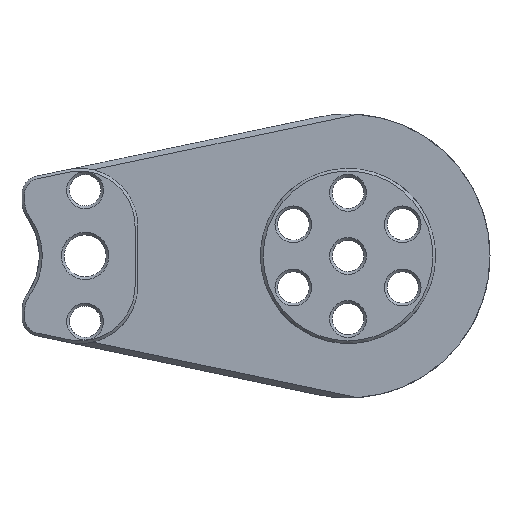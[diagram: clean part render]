
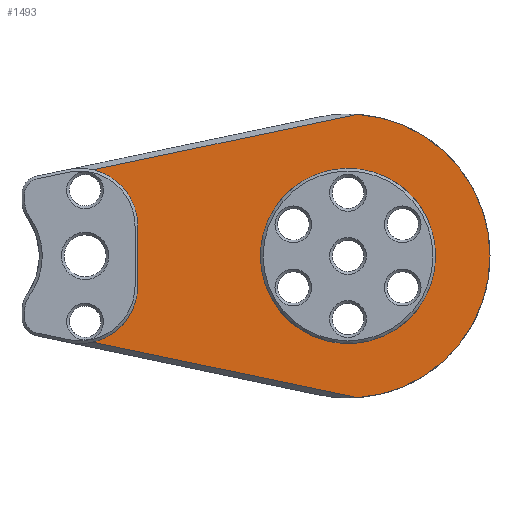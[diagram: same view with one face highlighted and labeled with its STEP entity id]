
A CAD part, top view. The second image highlights one B-rep face of the part: STEP entity #1493.
In plain terms, the highlighted planar face has unit normal (0, 0, 1).
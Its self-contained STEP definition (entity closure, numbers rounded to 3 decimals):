
#75=FACE_BOUND('',#283,.T.);
#117=CIRCLE('',#1579,11.);
#119=CIRCLE('',#1586,11.001);
#122=CIRCLE('',#1596,27.);
#123=CIRCLE('',#1606,16.649);
#194=FACE_OUTER_BOUND('',#282,.T.);
#282=EDGE_LOOP('',(#1315,#1316,#1317,#1318,#1319,#1320));
#283=EDGE_LOOP('',(#1321));
#365=LINE('',#3260,#465);
#398=LINE('',#3498,#498);
#399=LINE('',#3500,#499);
#465=VECTOR('',#1840,10.);
#498=VECTOR('',#1951,10.);
#499=VECTOR('',#1954,10.);
#693=VERTEX_POINT('',#3157);
#694=VERTEX_POINT('',#3159);
#704=VERTEX_POINT('',#3248);
#705=VERTEX_POINT('',#3250);
#712=VERTEX_POINT('',#3390);
#713=VERTEX_POINT('',#3392);
#715=VERTEX_POINT('',#3412);
#867=EDGE_CURVE('',#694,#693,#117,.T.);
#881=EDGE_CURVE('',#705,#704,#119,.T.);
#884=EDGE_CURVE('',#693,#705,#365,.T.);
#898=EDGE_CURVE('',#713,#712,#122,.T.);
#909=EDGE_CURVE('',#715,#715,#123,.T.);
#932=EDGE_CURVE('',#712,#694,#398,.T.);
#933=EDGE_CURVE('',#713,#704,#399,.T.);
#1315=ORIENTED_EDGE('',*,*,#884,.T.);
#1316=ORIENTED_EDGE('',*,*,#881,.T.);
#1317=ORIENTED_EDGE('',*,*,#933,.F.);
#1318=ORIENTED_EDGE('',*,*,#898,.T.);
#1319=ORIENTED_EDGE('',*,*,#932,.T.);
#1320=ORIENTED_EDGE('',*,*,#867,.T.);
#1321=ORIENTED_EDGE('',*,*,#909,.T.);
#1418=PLANE('',#1627);
#1493=ADVANCED_FACE('',(#194,#75),#1418,.T.);
#1579=AXIS2_PLACEMENT_3D('',#3160,#1816,#1817);
#1586=AXIS2_PLACEMENT_3D('',#3251,#1835,#1836);
#1596=AXIS2_PLACEMENT_3D('',#3393,#1863,#1864);
#1606=AXIS2_PLACEMENT_3D('',#3414,#1892,#1893);
#1627=AXIS2_PLACEMENT_3D('',#3499,#1952,#1953);
#1816=DIRECTION('center_axis',(0.,0.,
-1.));
#1817=DIRECTION('ref_axis',(0.181,0.984,0.));
#1835=DIRECTION('center_axis',(0.,0.,
-1.));
#1836=DIRECTION('ref_axis',(0.182,-0.983,0.));
#1840=DIRECTION('',(0.,-1.,0.));
#1863=DIRECTION('center_axis',(0.,0.,
1.));
#1864=DIRECTION('ref_axis',(-1.,0.001,0.));
#1892=DIRECTION('center_axis',(0.,0.,
-1.));
#1893=DIRECTION('ref_axis',(-1.,0.,0.));
#1951=DIRECTION('',(-0.979,-0.205,0.));
#1952=DIRECTION('center_axis',(0.,0.,
1.));
#1953=DIRECTION('ref_axis',(1.,0.,0.));
#1954=DIRECTION('',(-0.979,0.205,0.));
#3157=CARTESIAN_POINT('',(-39.999,5.649,-6.7));
#3159=CARTESIAN_POINT('',(-48.568,16.377,-6.7));
#3160=CARTESIAN_POINT('Origin',(-50.999,5.649,-6.7));
#3248=CARTESIAN_POINT('',(-48.569,-16.377,-6.7));
#3250=CARTESIAN_POINT('',(-39.999,-5.648,-6.7));
#3251=CARTESIAN_POINT('Origin',(-51.,-5.648,-6.7));
#3260=CARTESIAN_POINT('',(-39.999,0.,-6.7));
#3390=CARTESIAN_POINT('',(1.786,26.941,-6.7));
#3392=CARTESIAN_POINT('',(1.786,-26.941,-6.7));
#3393=CARTESIAN_POINT('Origin',(0.,0.,
-6.7));
#3412=CARTESIAN_POINT('',(16.649,0.,-6.7));
#3414=CARTESIAN_POINT('Origin',(0.,0.,
-6.7));
#3498=CARTESIAN_POINT('',(-17.265,22.944,-6.7));
#3499=CARTESIAN_POINT('Origin',(-3.052,0.,
-6.7));
#3500=CARTESIAN_POINT('',(-17.265,-22.944,-6.7));
